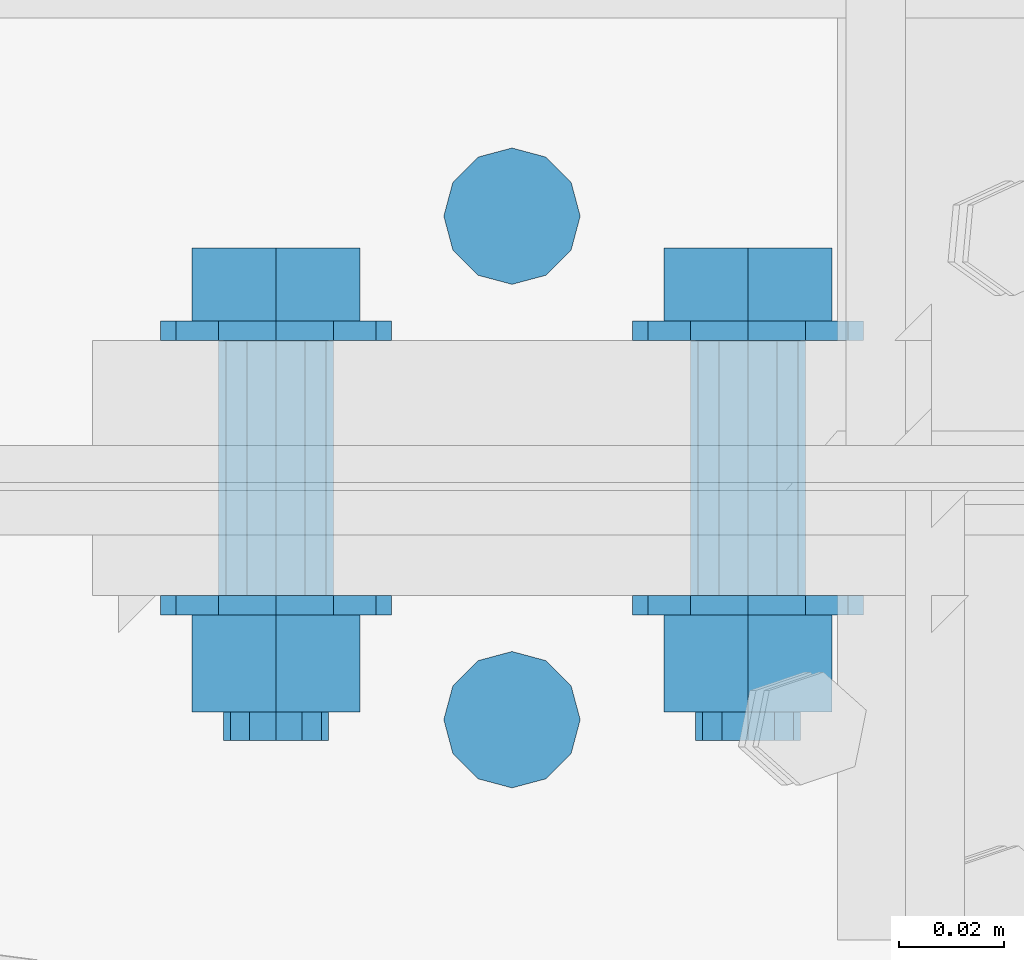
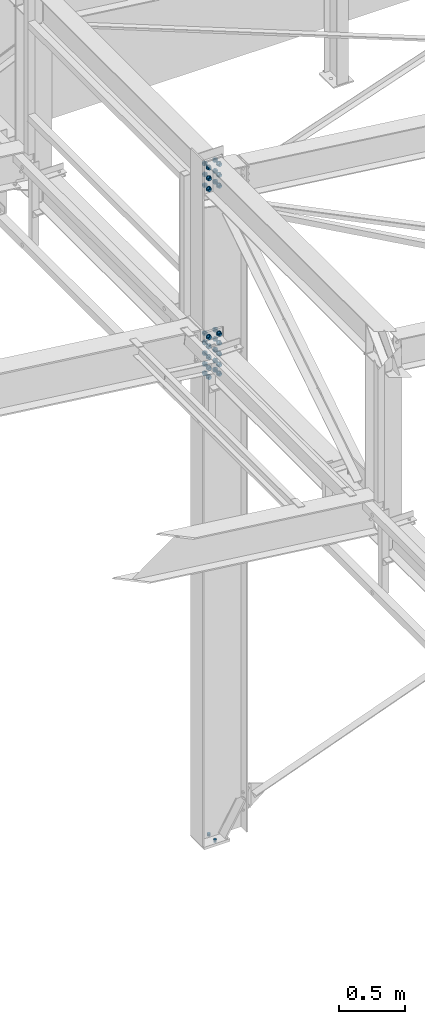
# One storey, part 285 of 3134: 3 mechanical fasteners, 3 elements without a shape of their own.
"""IFC2X3 building model written with IfcOpenShell, lengths in millimetres."""

from ifc_helpers import new_model, si_unit, frame, origin_with_axes, place, context, subcontext, project, spatial, faceted_brep, source, transform, mapped, material, type_object, element, aggregate, save


model = new_model("IFC2X3")

# Units and contexts
model_context = context("Model", 3, precision=1e-05, world=origin_with_axes())
body_context = subcontext(model_context, "Body", "Model", "MODEL_VIEW")
ifc_project = project(units=[si_unit("LENGTHUNIT", "METRE", prefix="MILLI"), si_unit("AREAUNIT", "SQUARE_METRE"), si_unit("VOLUMEUNIT", "CUBIC_METRE"), si_unit("MASSUNIT", "GRAM", prefix="KILO"), si_unit("TIMEUNIT", "SECOND"), si_unit("PLANEANGLEUNIT", "RADIAN"), si_unit("SOLIDANGLEUNIT", "STERADIAN"), si_unit("THERMODYNAMICTEMPERATUREUNIT", "DEGREE_CELSIUS"), si_unit("LUMINOUSINTENSITYUNIT", "LUMEN")], contexts=[model_context])

# Site, building, storey
site_placement = place(None, origin_with_axes())
site = spatial("IfcSite", under=ifc_project, at=site_placement, CompositionType="ELEMENT")
building_placement = place(site_placement, origin_with_axes())
building = spatial("IfcBuilding", under=site, at=building_placement, Name="Undefined", CompositionType="ELEMENT")
storey_placement = place(building_placement, origin_with_axes())
storey = spatial("IfcBuildingStorey", under=building, at=storey_placement, Name="Undefined", CompositionType="ELEMENT", Elevation=0.0)

# Assembly, mechanical fastener
assembly_1_placement = place(storey_placement, origin_with_axes())
assembly_1 = element("IfcElementAssembly", 1, at=assembly_1_placement, inside=storey, Name="300", AssemblyPlace="NOTDEFINED", PredefinedType="RIGID_FRAME")
ifc_material_1 = material(Name="HR10.9")
mechanical_fastener_type = type_object("IfcMechanicalFastenerType", Name="Bolt assembly")
shared_shape_1 = source(origin_with_axes(), body_context, "Body", "Brep", [
    faceted_brep([(18.475208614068, -61.8999996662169, 0.0), (9.23760430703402, -61.8999996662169, 16.0), (-9.23760430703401, -61.8999996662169, 16.0), (-18.475208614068, -61.8999996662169, 2.2625605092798e-15), (-9.23760430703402, -61.8999996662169, -16.0), (9.237604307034, -61.8999996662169, -16.0), (9.237604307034, -48.0000000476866, -16.0), (-9.23760430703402, -48.0000000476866, -16.0), (-18.475208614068, -48.0000000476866, 2.2625605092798e-15), (-9.23760430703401, -48.0000000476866, 16.0), (9.23760430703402, -48.0000000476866, 16.0), (18.475208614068, -48.0000000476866, 0.0), (10.0, -48.0000000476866, 0.0), (8.66025403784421, -48.0000000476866, 5.0000000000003), (4.9999999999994, -48.0000000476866, 8.66025403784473), (-1.03633598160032e-12, -48.0000000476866, 10.0), (-5.00000000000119, -48.0000000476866, 8.6602540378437), (-8.66025403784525, -48.0000000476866, 4.99999999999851), (-10.0, -48.0000000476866, -2.07267196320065e-12), (-8.66025403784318, -48.0000000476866, -5.00000000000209), (-4.99999999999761, -48.0000000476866, -8.66025403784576), (3.09790571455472e-12, -48.0000000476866, -10.0), (5.00000000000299, -48.0000000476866, -8.66025403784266), (8.66025403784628, -48.0000000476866, -4.99999999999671), (8.66025403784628, 31.9999999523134, -4.99999999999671), (5.00000000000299, 31.9999999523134, -8.66025403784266), (3.09790571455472e-12, 31.9999999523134, -10.0), (-4.99999999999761, 31.9999999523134, -8.66025403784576), (-8.66025403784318, 31.9999999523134, -5.00000000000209), (-10.0, 31.9999999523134, -2.07267196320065e-12), (-8.66025403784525, 31.9999999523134, 4.99999999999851), (-5.00000000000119, 31.9999999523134, 8.6602540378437), (-1.03633598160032e-12, 31.9999999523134, 10.0), (4.9999999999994, 31.9999999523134, 8.66025403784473), (8.66025403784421, 31.9999999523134, 5.0000000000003), (10.0, 31.9999999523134, 0.0), (22.0, -48.0000000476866, 0.0), (19.0525588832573, -48.0000000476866, 11.0000000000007), (10.9999999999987, -48.0000000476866, 19.0525588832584), (-2.27993915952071e-12, -48.0000000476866, 22.0), (-11.0000000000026, -48.0000000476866, 19.0525588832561), (-19.0525588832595, -48.0000000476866, 10.9999999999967), (-22.0, -48.0000000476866, -4.55987831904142e-12), (-19.052558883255, -48.0000000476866, -11.0000000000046), (-10.9999999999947, -48.0000000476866, -19.0525588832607), (6.81539257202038e-12, -48.0000000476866, -22.0), (11.0000000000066, -48.0000000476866, -19.0525588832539), (19.0525588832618, -48.0000000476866, -10.9999999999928), (19.0525588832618, -44.3000000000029, -10.9999999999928), (11.0000000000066, -44.3000000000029, -19.0525588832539), (6.81539257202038e-12, -44.3000000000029, -22.0), (-10.9999999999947, -44.3000000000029, -19.0525588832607), (-19.052558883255, -44.3000000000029, -11.0000000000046), (-22.0, -44.3000000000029, -4.55987831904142e-12), (-19.0525588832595, -44.3000000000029, 10.9999999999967), (-11.0000000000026, -44.3000000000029, 19.0525588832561), (-2.27993915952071e-12, -44.3000000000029, 22.0), (10.9999999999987, -44.3000000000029, 19.0525588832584), (19.0525588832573, -44.3000000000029, 11.0000000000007), (22.0, -44.3000000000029, 0.0), (22.0, 4.30000000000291, 0.0), (19.0525588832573, 4.30000000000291, 11.0000000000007), (10.9999999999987, 4.30000000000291, 19.0525588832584), (-2.27993915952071e-12, 4.30000000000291, 22.0), (-11.0000000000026, 4.30000000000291, 19.0525588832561), (-19.0525588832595, 4.30000000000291, 10.9999999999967), (-22.0, 4.30000000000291, -4.55987831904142e-12), (-19.052558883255, 4.30000000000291, -11.0000000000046), (-10.9999999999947, 4.30000000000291, -19.0525588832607), (6.81539257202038e-12, 4.30000000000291, -22.0), (11.0000000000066, 4.30000000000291, -19.0525588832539), (19.0525588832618, 4.30000000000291, -10.9999999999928), (19.0525588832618, 8.00000004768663, -10.9999999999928), (11.0000000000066, 8.00000004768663, -19.0525588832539), (6.81539257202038e-12, 8.00000004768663, -22.0), (-10.9999999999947, 8.00000004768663, -19.0525588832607), (-19.052558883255, 8.00000004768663, -11.0000000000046), (-22.0, 8.00000004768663, -4.55987831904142e-12), (-19.0525588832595, 8.00000004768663, 10.9999999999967), (-11.0000000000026, 8.00000004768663, 19.0525588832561), (-2.27993915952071e-12, 8.00000004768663, 22.0), (10.9999999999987, 8.00000004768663, 19.0525588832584), (19.0525588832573, 8.00000004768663, 11.0000000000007), (22.0, 8.00000004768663, 0.0), (18.475208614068, 8.00000004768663, 0.0), (9.23760430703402, 8.00000004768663, 16.0), (-9.23760430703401, 8.00000004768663, 16.0), (-18.475208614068, 8.00000004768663, 2.2625605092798e-15), (-9.23760430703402, 8.00000004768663, -16.0), (9.237604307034, 8.00000004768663, -16.0), (9.237604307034, 26.5499992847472, -16.0), (-9.23760430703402, 26.5499992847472, -16.0), (-18.475208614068, 26.5499992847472, 2.2625605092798e-15), (-9.23760430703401, 26.5499992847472, 16.0), (9.23760430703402, 26.5499992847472, 16.0), (18.475208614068, 26.5499992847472, 0.0)], [[[0, 1, 2, 3, 4, 5]], [[6, 7, 8, 9, 10, 11]], [[0, 11, 10, 1]], [[1, 10, 9, 2]], [[2, 9, 8, 3]], [[3, 8, 7, 4]], [[4, 7, 6, 5]], [[5, 6, 11, 0]], [[12, 13, 14, 15, 16, 17, 18, 19, 20, 21, 22, 23]], [[24, 25, 26, 27, 28, 29, 30, 31, 32, 33, 34, 35]], [[12, 35, 34, 13]], [[13, 34, 33, 14]], [[14, 33, 32, 15]], [[15, 32, 31, 16]], [[16, 31, 30, 17]], [[17, 30, 29, 18]], [[18, 29, 28, 19]], [[19, 28, 27, 20]], [[20, 27, 26, 21]], [[21, 26, 25, 22]], [[22, 25, 24, 23]], [[23, 24, 35, 12]], [[36, 37, 38, 39, 40, 41, 42, 43, 44, 45, 46, 47]], [[48, 49, 50, 51, 52, 53, 54, 55, 56, 57, 58, 59]], [[36, 59, 58, 37]], [[37, 58, 57, 38]], [[38, 57, 56, 39]], [[39, 56, 55, 40]], [[40, 55, 54, 41]], [[41, 54, 53, 42]], [[42, 53, 52, 43]], [[43, 52, 51, 44]], [[44, 51, 50, 45]], [[45, 50, 49, 46]], [[46, 49, 48, 47]], [[47, 48, 59, 36]], [[60, 61, 62, 63, 64, 65, 66, 67, 68, 69, 70, 71]], [[72, 73, 74, 75, 76, 77, 78, 79, 80, 81, 82, 83]], [[60, 83, 82, 61]], [[61, 82, 81, 62]], [[62, 81, 80, 63]], [[63, 80, 79, 64]], [[64, 79, 78, 65]], [[65, 78, 77, 66]], [[66, 77, 76, 67]], [[67, 76, 75, 68]], [[68, 75, 74, 69]], [[69, 74, 73, 70]], [[70, 73, 72, 71]], [[71, 72, 83, 60]], [[84, 85, 86, 87, 88, 89]], [[90, 91, 92, 93, 94, 95]], [[84, 95, 94, 85]], [[85, 94, 93, 86]], [[86, 93, 92, 87]], [[87, 92, 91, 88]], [[88, 91, 90, 89]], [[89, 90, 95, 84]]]),
    faceted_brep([(11.0, -24.3000001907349, 0.0), (9.52627944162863, -24.3000001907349, 5.50000000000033), (5.49999999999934, -24.3000001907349, 9.5262794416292), (-1.13996957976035e-12, -24.3000001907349, 11.0), (-5.50000000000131, -24.3000001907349, 9.52627944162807), (-9.52627944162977, -24.3000001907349, 5.49999999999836), (-11.0, -24.3000001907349, -2.27993915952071e-12), (-9.5262794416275, -24.3000001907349, -5.5000000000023), (-5.49999999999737, -24.3000001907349, -9.52627944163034), (3.40769628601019e-12, -24.3000001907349, -11.0), (5.50000000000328, -24.3000001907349, -9.52627944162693), (9.52627944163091, -24.3000001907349, -5.49999999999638), (9.52627944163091, -15.6999998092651, -5.49999999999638), (5.50000000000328, -15.6999998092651, -9.52627944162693), (3.40769628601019e-12, -15.6999998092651, -11.0), (-5.49999999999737, -15.6999998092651, -9.52627944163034), (-9.5262794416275, -15.6999998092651, -5.5000000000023), (-11.0, -15.6999998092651, -2.27993915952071e-12), (-9.52627944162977, -15.6999998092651, 5.49999999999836), (-5.50000000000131, -15.6999998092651, 9.52627944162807), (-1.13996957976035e-12, -15.6999998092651, 11.0), (5.49999999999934, -15.6999998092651, 9.5262794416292), (9.52627944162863, -15.6999998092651, 5.50000000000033), (11.0, -15.6999998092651, 0.0), (11.0, -44.2000000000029, 0.0), (9.52627944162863, -44.2000000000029, 5.50000000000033), (5.49999999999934, -44.2000000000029, 9.5262794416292), (-1.13996957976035e-12, -44.2000000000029, 11.0), (-5.50000000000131, -44.2000000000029, 9.52627944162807), (-9.52627944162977, -44.2000000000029, 5.49999999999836), (-11.0, -44.2000000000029, -2.27993915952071e-12), (-9.5262794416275, -44.2000000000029, -5.5000000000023), (-5.49999999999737, -44.2000000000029, -9.52627944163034), (3.40769628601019e-12, -44.2000000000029, -11.0), (5.50000000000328, -44.2000000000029, -9.52627944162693), (9.52627944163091, -44.2000000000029, -5.49999999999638), (9.52627944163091, -24.2000000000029, -5.49999999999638), (5.50000000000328, -24.2000000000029, -9.52627944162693), (3.40769628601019e-12, -24.2000000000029, -11.0), (-5.49999999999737, -24.2000000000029, -9.52627944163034), (-9.5262794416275, -24.2000000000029, -5.5000000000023), (-11.0, -24.2000000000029, -2.27993915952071e-12), (-9.52627944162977, -24.2000000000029, 5.49999999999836), (-5.50000000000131, -24.2000000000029, 9.52627944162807), (-1.13996957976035e-12, -24.2000000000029, 11.0), (5.49999999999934, -24.2000000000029, 9.5262794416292), (9.52627944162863, -24.2000000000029, 5.50000000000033), (11.0, -24.2000000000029, 0.0), (11.0, -15.7999999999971, 0.0), (9.52627944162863, -15.7999999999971, 5.50000000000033), (5.49999999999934, -15.7999999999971, 9.5262794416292), (-1.13996957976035e-12, -15.7999999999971, 11.0), (-5.50000000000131, -15.7999999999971, 9.52627944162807), (-9.52627944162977, -15.7999999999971, 5.49999999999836), (-11.0, -15.7999999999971, -2.27993915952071e-12), (-9.5262794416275, -15.7999999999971, -5.5000000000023), (-5.49999999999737, -15.7999999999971, -9.52627944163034), (3.40769628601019e-12, -15.7999999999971, -11.0), (5.50000000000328, -15.7999999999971, -9.52627944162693), (9.52627944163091, -15.7999999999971, -5.49999999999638), (9.52627944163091, 4.30000000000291, -5.49999999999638), (5.50000000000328, 4.30000000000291, -9.52627944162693), (3.40769628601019e-12, 4.30000000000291, -11.0), (-5.49999999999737, 4.30000000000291, -9.52627944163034), (-9.5262794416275, 4.30000000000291, -5.5000000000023), (-11.0, 4.30000000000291, -2.27993915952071e-12), (-9.52627944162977, 4.30000000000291, 5.49999999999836), (-5.50000000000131, 4.30000000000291, 9.52627944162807), (-1.13996957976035e-12, 4.30000000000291, 11.0), (5.49999999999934, 4.30000000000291, 9.5262794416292), (9.52627944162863, 4.30000000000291, 5.50000000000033), (11.0, 4.30000000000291, 0.0)], [[[0, 1, 2, 3, 4, 5, 6, 7, 8, 9, 10, 11]], [[12, 13, 14, 15, 16, 17, 18, 19, 20, 21, 22, 23]], [[0, 23, 22, 1]], [[1, 22, 21, 2]], [[2, 21, 20, 3]], [[3, 20, 19, 4]], [[4, 19, 18, 5]], [[5, 18, 17, 6]], [[6, 17, 16, 7]], [[7, 16, 15, 8]], [[8, 15, 14, 9]], [[9, 14, 13, 10]], [[10, 13, 12, 11]], [[11, 12, 23, 0]], [[24, 25, 26, 27, 28, 29, 30, 31, 32, 33, 34, 35]], [[36, 37, 38, 39, 40, 41, 42, 43, 44, 45, 46, 47]], [[24, 47, 46, 25]], [[25, 46, 45, 26]], [[26, 45, 44, 27]], [[27, 44, 43, 28]], [[28, 43, 42, 29]], [[29, 42, 41, 30]], [[30, 41, 40, 31]], [[31, 40, 39, 32]], [[32, 39, 38, 33]], [[33, 38, 37, 34]], [[34, 37, 36, 35]], [[35, 36, 47, 24]], [[48, 49, 50, 51, 52, 53, 54, 55, 56, 57, 58, 59]], [[60, 61, 62, 63, 64, 65, 66, 67, 68, 69, 70, 71]], [[48, 71, 70, 49]], [[49, 70, 69, 50]], [[50, 69, 68, 51]], [[51, 68, 67, 52]], [[52, 67, 66, 53]], [[53, 66, 65, 54]], [[54, 65, 64, 55]], [[55, 64, 63, 56]], [[56, 63, 62, 57]], [[57, 62, 61, 58]], [[58, 61, 60, 59]], [[59, 60, 71, 48]]]),
])
mechanical_fastener_1_placement = place(assembly_1_placement, frame((44200.0, 61030.0, 5841.5), z_axis=(-1.0, 0.0, 0.0), x_axis=(0.0, 0.0, -1.0)))
mechanical_fastener_1 = element("IfcMechanicalFastener", 2, at=mechanical_fastener_1_placement, type_object=mechanical_fastener_type, material=ifc_material_1, Name="Bolt assembly", NominalDiameter=20.0, NominalLength=80.0, context=body_context, shape_type="MappedRepresentation", body=[
    mapped(shared_shape_1, transform((0.0, 0.0, -45.0))),
    mapped(shared_shape_1, transform((100.0, 0.0, -45.0))),
    mapped(shared_shape_1, transform((200.0, 0.0, -45.0))),
    mapped(shared_shape_1, transform((0.0, 0.0, 45.0))),
    mapped(shared_shape_1, transform((100.0, 0.0, 45.0))),
    mapped(shared_shape_1, transform((200.0, 0.0, 45.0))),
])
aggregate(assembly_1, [mechanical_fastener_1])

assembly_2_placement = place(storey_placement, origin_with_axes())
assembly_2 = element("IfcElementAssembly", 3, at=assembly_2_placement, inside=storey, Name="300", AssemblyPlace="NOTDEFINED", PredefinedType="RIGID_FRAME")
shared_shape_2 = source(origin_with_axes(), body_context, "Body", "Brep", [
    faceted_brep([(18.475208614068, -66.1999996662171, 0.0), (9.23760430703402, -66.1999996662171, 16.0), (-9.23760430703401, -66.1999996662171, 16.0), (-18.475208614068, -66.1999996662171, 2.2625605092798e-15), (-9.23760430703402, -66.1999996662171, -16.0), (9.237604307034, -66.1999996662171, -16.0), (9.237604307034, -52.3000000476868, -16.0), (-9.23760430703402, -52.3000000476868, -16.0), (-18.475208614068, -52.3000000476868, 2.2625605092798e-15), (-9.23760430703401, -52.3000000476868, 16.0), (9.23760430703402, -52.3000000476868, 16.0), (18.475208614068, -52.3000000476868, 0.0), (10.0, -52.3000000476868, 0.0), (8.66025403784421, -52.3000000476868, 5.0000000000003), (4.9999999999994, -52.3000000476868, 8.66025403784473), (-1.03633598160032e-12, -52.3000000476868, 10.0), (-5.00000000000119, -52.3000000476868, 8.6602540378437), (-8.66025403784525, -52.3000000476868, 4.99999999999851), (-10.0, -52.3000000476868, -2.07267196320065e-12), (-8.66025403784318, -52.3000000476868, -5.00000000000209), (-4.99999999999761, -52.3000000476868, -8.66025403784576), (3.09790571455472e-12, -52.3000000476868, -10.0), (5.00000000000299, -52.3000000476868, -8.66025403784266), (8.66025403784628, -52.3000000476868, -4.99999999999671), (8.66025403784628, 27.6999999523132, -4.99999999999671), (5.00000000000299, 27.6999999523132, -8.66025403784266), (3.09790571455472e-12, 27.6999999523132, -10.0), (-4.99999999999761, 27.6999999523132, -8.66025403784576), (-8.66025403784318, 27.6999999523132, -5.00000000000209), (-10.0, 27.6999999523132, -2.07267196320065e-12), (-8.66025403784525, 27.6999999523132, 4.99999999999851), (-5.00000000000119, 27.6999999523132, 8.6602540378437), (-1.03633598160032e-12, 27.6999999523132, 10.0), (4.9999999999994, 27.6999999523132, 8.66025403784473), (8.66025403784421, 27.6999999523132, 5.0000000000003), (10.0, 27.6999999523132, 0.0), (22.0, -52.3000000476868, 0.0), (19.0525588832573, -52.3000000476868, 11.0000000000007), (10.9999999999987, -52.3000000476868, 19.0525588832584), (-2.27993915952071e-12, -52.3000000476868, 22.0), (-11.0000000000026, -52.3000000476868, 19.0525588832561), (-19.0525588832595, -52.3000000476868, 10.9999999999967), (-22.0, -52.3000000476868, -4.55987831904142e-12), (-19.052558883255, -52.3000000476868, -11.0000000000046), (-10.9999999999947, -52.3000000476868, -19.0525588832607), (6.81539257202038e-12, -52.3000000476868, -22.0), (11.0000000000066, -52.3000000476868, -19.0525588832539), (19.0525588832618, -52.3000000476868, -10.9999999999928), (19.0525588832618, -48.6000000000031, -10.9999999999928), (11.0000000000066, -48.6000000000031, -19.0525588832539), (6.81539257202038e-12, -48.6000000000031, -22.0), (-10.9999999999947, -48.6000000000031, -19.0525588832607), (-19.052558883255, -48.6000000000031, -11.0000000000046), (-22.0, -48.6000000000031, -4.55987831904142e-12), (-19.0525588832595, -48.6000000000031, 10.9999999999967), (-11.0000000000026, -48.6000000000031, 19.0525588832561), (-2.27993915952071e-12, -48.6000000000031, 22.0), (10.9999999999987, -48.6000000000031, 19.0525588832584), (19.0525588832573, -48.6000000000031, 11.0000000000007), (22.0, -48.6000000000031, 0.0), (22.0, 0.0, 0.0), (19.0525588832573, 0.0, 11.0000000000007), (10.9999999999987, 0.0, 19.0525588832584), (-2.27993915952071e-12, 0.0, 22.0), (-11.0000000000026, 0.0, 19.0525588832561), (-19.0525588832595, 0.0, 10.9999999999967), (-22.0, 0.0, -4.55987831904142e-12), (-19.052558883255, 0.0, -11.0000000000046), (-10.9999999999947, 0.0, -19.0525588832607), (6.81539257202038e-12, 0.0, -22.0), (11.0000000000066, 0.0, -19.0525588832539), (19.0525588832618, 0.0, -10.9999999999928), (19.0525588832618, 3.70000004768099, -10.9999999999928), (11.0000000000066, 3.70000004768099, -19.0525588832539), (6.81539257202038e-12, 3.70000004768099, -22.0), (-10.9999999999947, 3.70000004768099, -19.0525588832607), (-19.052558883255, 3.70000004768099, -11.0000000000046), (-22.0, 3.70000004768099, -4.55987831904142e-12), (-19.0525588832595, 3.70000004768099, 10.9999999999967), (-11.0000000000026, 3.70000004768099, 19.0525588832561), (-2.27993915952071e-12, 3.70000004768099, 22.0), (10.9999999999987, 3.70000004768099, 19.0525588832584), (19.0525588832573, 3.70000004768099, 11.0000000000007), (22.0, 3.70000004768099, 0.0), (18.475208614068, 3.70000004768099, 0.0), (9.23760430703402, 3.70000004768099, 16.0), (-9.23760430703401, 3.70000004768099, 16.0), (-18.475208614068, 3.70000004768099, 2.2625605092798e-15), (-9.23760430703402, 3.70000004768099, -16.0), (9.237604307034, 3.70000004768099, -16.0), (9.237604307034, 22.2499992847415, -16.0), (-9.23760430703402, 22.2499992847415, -16.0), (-18.475208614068, 22.2499992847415, 2.2625605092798e-15), (-9.23760430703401, 22.2499992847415, 16.0), (9.23760430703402, 22.2499992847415, 16.0), (18.475208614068, 22.2499992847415, 0.0)], [[[0, 1, 2, 3, 4, 5]], [[6, 7, 8, 9, 10, 11]], [[0, 11, 10, 1]], [[1, 10, 9, 2]], [[2, 9, 8, 3]], [[3, 8, 7, 4]], [[4, 7, 6, 5]], [[5, 6, 11, 0]], [[12, 13, 14, 15, 16, 17, 18, 19, 20, 21, 22, 23]], [[24, 25, 26, 27, 28, 29, 30, 31, 32, 33, 34, 35]], [[12, 35, 34, 13]], [[13, 34, 33, 14]], [[14, 33, 32, 15]], [[15, 32, 31, 16]], [[16, 31, 30, 17]], [[17, 30, 29, 18]], [[18, 29, 28, 19]], [[19, 28, 27, 20]], [[20, 27, 26, 21]], [[21, 26, 25, 22]], [[22, 25, 24, 23]], [[23, 24, 35, 12]], [[36, 37, 38, 39, 40, 41, 42, 43, 44, 45, 46, 47]], [[48, 49, 50, 51, 52, 53, 54, 55, 56, 57, 58, 59]], [[36, 59, 58, 37]], [[37, 58, 57, 38]], [[38, 57, 56, 39]], [[39, 56, 55, 40]], [[40, 55, 54, 41]], [[41, 54, 53, 42]], [[42, 53, 52, 43]], [[43, 52, 51, 44]], [[44, 51, 50, 45]], [[45, 50, 49, 46]], [[46, 49, 48, 47]], [[47, 48, 59, 36]], [[60, 61, 62, 63, 64, 65, 66, 67, 68, 69, 70, 71]], [[72, 73, 74, 75, 76, 77, 78, 79, 80, 81, 82, 83]], [[60, 83, 82, 61]], [[61, 82, 81, 62]], [[62, 81, 80, 63]], [[63, 80, 79, 64]], [[64, 79, 78, 65]], [[65, 78, 77, 66]], [[66, 77, 76, 67]], [[67, 76, 75, 68]], [[68, 75, 74, 69]], [[69, 74, 73, 70]], [[70, 73, 72, 71]], [[71, 72, 83, 60]], [[84, 85, 86, 87, 88, 89]], [[90, 91, 92, 93, 94, 95]], [[84, 95, 94, 85]], [[85, 94, 93, 86]], [[86, 93, 92, 87]], [[87, 92, 91, 88]], [[88, 91, 90, 89]], [[89, 90, 95, 84]]]),
    faceted_brep([(11.0, -28.6000001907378, 0.0), (9.52627944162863, -28.6000001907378, 5.50000000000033), (5.49999999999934, -28.6000001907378, 9.5262794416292), (-1.13996957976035e-12, -28.6000001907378, 11.0), (-5.50000000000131, -28.6000001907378, 9.52627944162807), (-9.52627944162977, -28.6000001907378, 5.49999999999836), (-11.0, -28.6000001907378, -2.27993915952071e-12), (-9.5262794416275, -28.6000001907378, -5.5000000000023), (-5.49999999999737, -28.6000001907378, -9.52627944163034), (3.40769628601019e-12, -28.6000001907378, -11.0), (5.50000000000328, -28.6000001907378, -9.52627944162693), (9.52627944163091, -28.6000001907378, -5.49999999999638), (9.52627944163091, -20.0, -5.49999999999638), (5.50000000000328, -20.0, -9.52627944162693), (3.40769628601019e-12, -20.0, -11.0), (-5.49999999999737, -20.0, -9.52627944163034), (-9.5262794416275, -20.0, -5.5000000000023), (-11.0, -20.0, -2.27993915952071e-12), (-9.52627944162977, -20.0, 5.49999999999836), (-5.50000000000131, -20.0, 9.52627944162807), (-1.13996957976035e-12, -20.0, 11.0), (5.49999999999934, -20.0, 9.5262794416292), (9.52627944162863, -20.0, 5.50000000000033), (11.0, -20.0, 0.0), (11.0, -20.1000000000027, 0.0), (9.52627944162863, -20.1000000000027, 5.50000000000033), (5.49999999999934, -20.1000000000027, 9.5262794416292), (-1.13996957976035e-12, -20.1000000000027, 11.0), (-5.50000000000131, -20.1000000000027, 9.52627944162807), (-9.52627944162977, -20.1000000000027, 5.49999999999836), (-11.0, -20.1000000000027, -2.27993915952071e-12), (-9.5262794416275, -20.1000000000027, -5.5000000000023), (-5.49999999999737, -20.1000000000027, -9.52627944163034), (3.40769628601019e-12, -20.1000000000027, -11.0), (5.50000000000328, -20.1000000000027, -9.52627944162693), (9.52627944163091, -20.1000000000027, -5.49999999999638), (9.52627944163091, 0.0, -5.49999999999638), (5.50000000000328, 0.0, -9.52627944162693), (3.40769628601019e-12, 0.0, -11.0), (-5.49999999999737, 0.0, -9.52627944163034), (-9.5262794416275, 0.0, -5.5000000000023), (-11.0, 0.0, -2.27993915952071e-12), (-9.52627944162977, 0.0, 5.49999999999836), (-5.50000000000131, 0.0, 9.52627944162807), (-1.13996957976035e-12, 0.0, 11.0), (5.49999999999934, 0.0, 9.5262794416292), (9.52627944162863, 0.0, 5.50000000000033), (11.0, 0.0, 0.0), (11.0, -48.5000000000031, 0.0), (9.52627944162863, -48.5000000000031, 5.50000000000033), (5.49999999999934, -48.5000000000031, 9.5262794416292), (-1.13996957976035e-12, -48.5000000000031, 11.0), (-5.50000000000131, -48.5000000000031, 9.52627944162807), (-9.52627944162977, -48.5000000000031, 5.49999999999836), (-11.0, -48.5000000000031, -2.27993915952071e-12), (-9.5262794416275, -48.5000000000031, -5.5000000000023), (-5.49999999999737, -48.5000000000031, -9.52627944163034), (3.40769628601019e-12, -48.5000000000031, -11.0), (5.50000000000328, -48.5000000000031, -9.52627944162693), (9.52627944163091, -48.5000000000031, -5.49999999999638), (9.52627944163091, -28.5000000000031, -5.49999999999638), (5.50000000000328, -28.5000000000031, -9.52627944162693), (3.40769628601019e-12, -28.5000000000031, -11.0), (-5.49999999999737, -28.5000000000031, -9.52627944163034), (-9.5262794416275, -28.5000000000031, -5.5000000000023), (-11.0, -28.5000000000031, -2.27993915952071e-12), (-9.52627944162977, -28.5000000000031, 5.49999999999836), (-5.50000000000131, -28.5000000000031, 9.52627944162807), (-1.13996957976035e-12, -28.5000000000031, 11.0), (5.49999999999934, -28.5000000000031, 9.5262794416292), (9.52627944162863, -28.5000000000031, 5.50000000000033), (11.0, -28.5000000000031, 0.0)], [[[0, 1, 2, 3, 4, 5, 6, 7, 8, 9, 10, 11]], [[12, 13, 14, 15, 16, 17, 18, 19, 20, 21, 22, 23]], [[0, 23, 22, 1]], [[1, 22, 21, 2]], [[2, 21, 20, 3]], [[3, 20, 19, 4]], [[4, 19, 18, 5]], [[5, 18, 17, 6]], [[6, 17, 16, 7]], [[7, 16, 15, 8]], [[8, 15, 14, 9]], [[9, 14, 13, 10]], [[10, 13, 12, 11]], [[11, 12, 23, 0]], [[24, 25, 26, 27, 28, 29, 30, 31, 32, 33, 34, 35]], [[36, 37, 38, 39, 40, 41, 42, 43, 44, 45, 46, 47]], [[24, 47, 46, 25]], [[25, 46, 45, 26]], [[26, 45, 44, 27]], [[27, 44, 43, 28]], [[28, 43, 42, 29]], [[29, 42, 41, 30]], [[30, 41, 40, 31]], [[31, 40, 39, 32]], [[32, 39, 38, 33]], [[33, 38, 37, 34]], [[34, 37, 36, 35]], [[35, 36, 47, 24]], [[48, 49, 50, 51, 52, 53, 54, 55, 56, 57, 58, 59]], [[60, 61, 62, 63, 64, 65, 66, 67, 68, 69, 70, 71]], [[48, 71, 70, 49]], [[49, 70, 69, 50]], [[50, 69, 68, 51]], [[51, 68, 67, 52]], [[52, 67, 66, 53]], [[53, 66, 65, 54]], [[54, 65, 64, 55]], [[55, 64, 63, 56]], [[56, 63, 62, 57]], [[57, 62, 61, 58]], [[58, 61, 60, 59]], [[59, 60, 71, 48]]]),
])
mechanical_fastener_2_placement = place(assembly_2_placement, frame((44200.0, 61025.7, 4273.5), z_axis=(-1.0, 0.0, 0.0), x_axis=(0.0, 0.0, -1.0)))
mechanical_fastener_2 = element("IfcMechanicalFastener", 4, at=mechanical_fastener_2_placement, type_object=mechanical_fastener_type, material=ifc_material_1, Name="Bolt assembly", NominalDiameter=20.0, NominalLength=80.0, context=body_context, shape_type="MappedRepresentation", body=[
    mapped(shared_shape_2, transform((0.0, 0.0, -45.0))),
    mapped(shared_shape_2, transform((85.0, 0.0, -45.0))),
    mapped(shared_shape_2, transform((185.0, 0.0, -45.0))),
    mapped(shared_shape_2, transform((285.0, 0.0, -45.0))),
    mapped(shared_shape_2, transform((370.0, 0.0, -45.0))),
    mapped(shared_shape_2, transform((0.0, 0.0, 45.0))),
    mapped(shared_shape_2, transform((85.0, 0.0, 45.0))),
    mapped(shared_shape_2, transform((185.0, 0.0, 45.0))),
    mapped(shared_shape_2, transform((285.0, 0.0, 45.0))),
    mapped(shared_shape_2, transform((370.0, 0.0, 45.0))),
])
aggregate(assembly_2, [mechanical_fastener_2])

assembly_3_placement = place(storey_placement, origin_with_axes())
assembly_3 = element("IfcElementAssembly", 5, at=assembly_3_placement, inside=storey, Name="IPE400", AssemblyPlace="NOTDEFINED", PredefinedType="RIGID_FRAME")
ifc_material_2 = material(Name="8.8")
shared_shape_3 = source(origin_with_axes(), body_context, "Body", "Brep", [
    faceted_brep([(13.0, -25.000000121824, 0.0), (11.2583302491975, -25.000000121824, 6.50000000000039), (6.49999999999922, -25.000000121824, 11.2583302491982), (-1.34723677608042e-12, -25.000000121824, 13.0), (-6.50000000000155, -25.000000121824, 11.2583302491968), (-11.2583302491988, -25.000000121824, 6.49999999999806), (-13.0, -25.000000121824, -2.69447355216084e-12), (-11.2583302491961, -25.000000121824, -6.50000000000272), (-6.4999999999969, -25.000000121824, -11.2583302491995), (4.02727742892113e-12, -25.000000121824, -13.0), (6.50000000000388, -25.000000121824, -11.2583302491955), (11.2583302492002, -25.000000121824, -6.49999999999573), (11.2583302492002, 0.100000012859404, -6.49999999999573), (6.50000000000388, 0.100000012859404, -11.2583302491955), (4.02727742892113e-12, 0.100000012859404, -13.0), (-6.4999999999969, 0.100000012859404, -11.2583302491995), (-11.2583302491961, 0.100000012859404, -6.50000000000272), (-13.0, 0.100000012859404, -2.69447355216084e-12), (-11.2583302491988, 0.100000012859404, 6.49999999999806), (-6.50000000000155, 0.100000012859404, 11.2583302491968), (-1.34723677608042e-12, 0.100000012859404, 13.0), (6.49999999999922, 0.100000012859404, 11.2583302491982), (11.2583302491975, 0.100000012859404, 6.50000000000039), (13.0, 0.100000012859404, 0.0)], [[[0, 1, 2, 3, 4, 5, 6, 7, 8, 9, 10, 11]], [[12, 13, 14, 15, 16, 17, 18, 19, 20, 21, 22, 23]], [[0, 23, 22, 1]], [[1, 22, 21, 2]], [[2, 21, 20, 3]], [[3, 20, 19, 4]], [[4, 19, 18, 5]], [[5, 18, 17, 6]], [[6, 17, 16, 7]], [[7, 16, 15, 8]], [[8, 15, 14, 9]], [[9, 14, 13, 10]], [[10, 13, 12, 11]], [[11, 12, 23, 0]]]),
])
mechanical_fastener_3_placement = place(assembly_3_placement, frame((44530.0, 61050.0, -375.0), z_axis=(0.0, 1.0, 0.0), x_axis=(-1.0, 0.0, 0.0)))
mechanical_fastener_3 = element("IfcMechanicalFastener", 6, at=mechanical_fastener_3_placement, type_object=mechanical_fastener_type, material=ifc_material_2, Name="Bolt assembly", NominalDiameter=24.0, NominalLength=25.0, context=body_context, shape_type="MappedRepresentation", body=[
    mapped(shared_shape_3, transform((330.0, 0.0, -48.0))),
    mapped(shared_shape_3, transform((330.0, 0.0, 48.0))),
])
aggregate(assembly_3, [mechanical_fastener_3])

save(model, "model.ifc")
